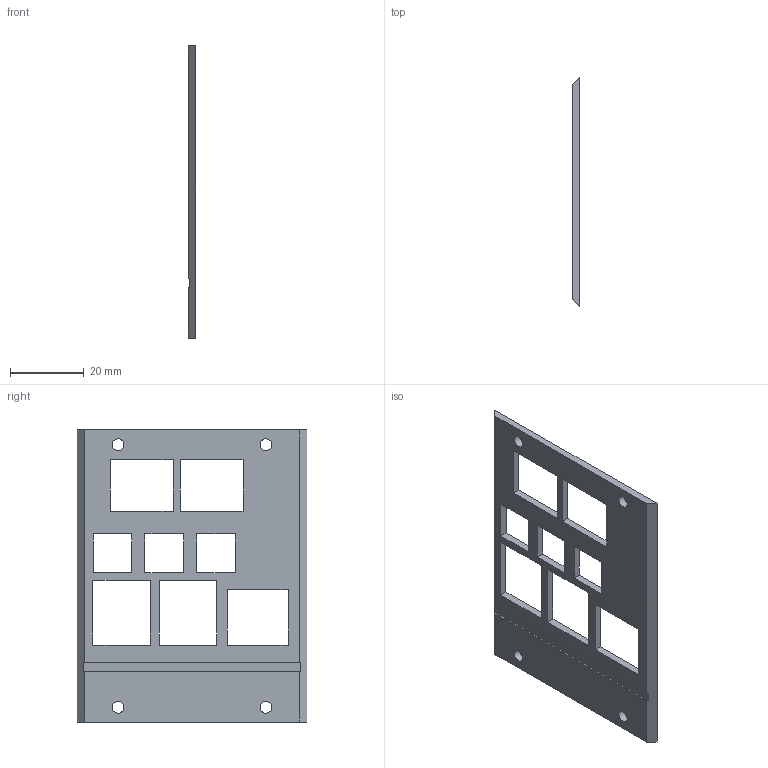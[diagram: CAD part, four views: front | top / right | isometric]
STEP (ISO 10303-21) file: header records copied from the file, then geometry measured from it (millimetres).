
FILE_DESCRIPTION(/* description */ ('STEP AP242','CAx-IF Rec.Pracs.---Representation and Presentation of Product Manufacturing Information (PMI)---4.0---2014-10-13','CAx-IF Rec.Pracs.---3D Tessellated Geometry---0.4---2014-09-14','2;1'),/* implementation_level */ '2;1');
FILE_NAME(/* name */ 'Case - Part 3',/* time_stamp */ '2024-08-18T13:23:26Z',/* author */ (''),/* organization */ (''),/* preprocessor_version */ 'ST-DEVELOPER v20',/* originating_system */ ' ',/* authorisation */ ' ');
FILE_SCHEMA (('AP242_MANAGED_MODEL_BASED_3D_ENGINEERING_MIM_LF { 1 0 10303 442 1 1 4 }'));
Length unit declared in the file: metre
Products named in the file (1): Part 3
Bounding box: 2 x 62 x 79 mm (x, y, z)
Volume: 6163.8 mm3; surface area: 7925.4 mm2
Topology: 1 solids, 1 shells, 46 faces, 132 edges, 88 vertices
Faces by surface type: plane 42, cylinder 4
Full cylindrical faces by diameter (mm): 3.2 x4
Entity records: 1534 total; most frequent: CARTESIAN_POINT 263, ORIENTED_EDGE 256, DIRECTION 230, EDGE_CURVE 128, LINE 120, VECTOR 120, VERTEX_POINT 88, EDGE_LOOP 74
